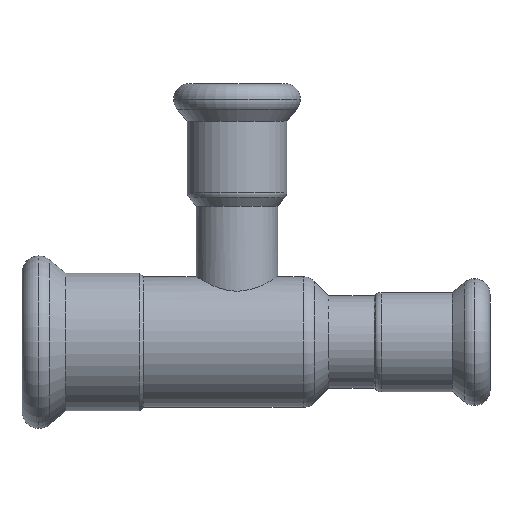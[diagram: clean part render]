
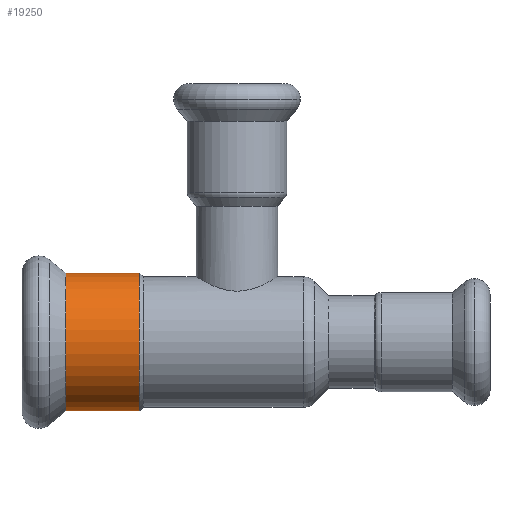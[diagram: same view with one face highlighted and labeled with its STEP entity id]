
A CAD part, top view. The second image highlights one B-rep face of the part: STEP entity #19250.
In plain terms, the highlighted cylindrical face has radius 12.65 mm (diameter 25.3 mm), a partial arc.
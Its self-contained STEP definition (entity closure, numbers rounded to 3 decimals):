
#8200=CARTESIAN_POINT('',(-350.749,3.785,0.));
#8210=VERTEX_POINT('',#8200);
#8390=CARTESIAN_POINT('',(-350.749,29.085,
0.));
#8400=VERTEX_POINT('',#8390);
#8430=CARTESIAN_POINT('',(-350.749,16.435,0.));
#8440=DIRECTION('',(-1.,0.,0.));
#8450=DIRECTION('',(0.,1.,0.));
#8460=AXIS2_PLACEMENT_3D('',#8430,#8440,#8450);
#8470=CIRCLE('',#8460,12.65);
#8480=EDGE_CURVE('',#8210,#8400,#8470,.T.);
#10500=CARTESIAN_POINT('',(-337.257,29.085,
0.));
#10510=VERTEX_POINT('',#10500);
#10540=CARTESIAN_POINT('',(-337.257,16.435,0.));
#10550=DIRECTION('',(-1.,0.,0.));
#10560=DIRECTION('',(0.,1.,0.));
#10570=AXIS2_PLACEMENT_3D('',#10540,#10550,#10560);
#10580=CIRCLE('',#10570,12.65);
#10590=CARTESIAN_POINT('',(-337.257,3.785,0.));
#10600=VERTEX_POINT('',#10590);
#19030=CARTESIAN_POINT('',(-343.997,16.435,0.));
#19040=DIRECTION('',(1.,0.,0.));
#19050=DIRECTION('',(0.,1.,0.));
#19060=AXIS2_PLACEMENT_3D('',#19030,#19040,#19050);
#19070=CYLINDRICAL_SURFACE('',#19060,12.65);
#19080=CARTESIAN_POINT('',(-343.997,3.785,
0.));
#19090=DIRECTION('',(1.,0.,0.));
#19100=VECTOR('',#19090,1.);
#19110=LINE('',#19080,#19100);
#19120=EDGE_CURVE('',#8210,#10600,#19110,.T.);
#19130=ORIENTED_EDGE('',*,*,#19120,.T.);
#19140=ORIENTED_EDGE('',*,*,#8480,.F.);
#19150=CARTESIAN_POINT('',(-343.997,29.085,0.));
#19160=DIRECTION('',(1.,0.,0.));
#19170=VECTOR('',#19160,1.);
#19180=LINE('',#19150,#19170);
#19190=EDGE_CURVE('',#8400,#10510,#19180,.T.);
#19200=ORIENTED_EDGE('',*,*,#19190,.F.);
#19210=EDGE_CURVE('',#10600,#10510,#10580,.T.);
#19220=ORIENTED_EDGE('',*,*,#19210,.T.);
#19230=EDGE_LOOP('',(#19220,#19200,#19140,#19130));
#19240=FACE_OUTER_BOUND('',#19230,.T.);
#19250=ADVANCED_FACE('',(#19240),#19070,.T.);
